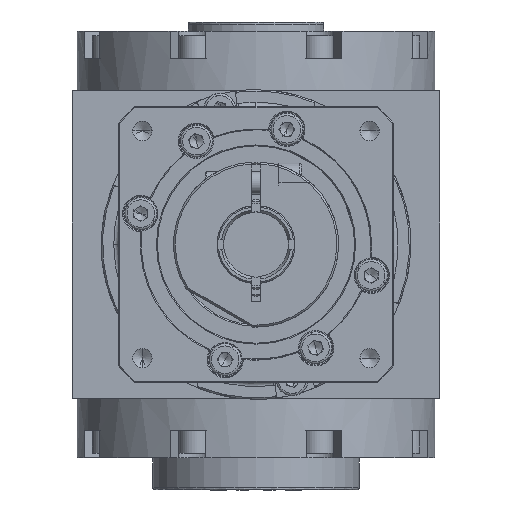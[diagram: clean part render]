
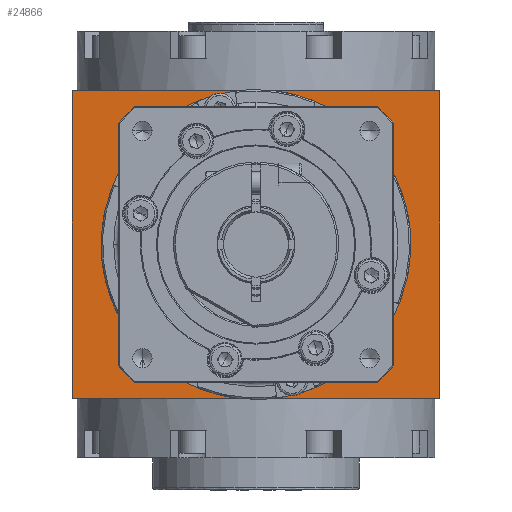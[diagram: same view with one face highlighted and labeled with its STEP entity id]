
A CAD part, front view. The second image highlights one B-rep face of the part: STEP entity #24866.
In plain terms, the highlighted planar face has unit normal (0, -1, 0).
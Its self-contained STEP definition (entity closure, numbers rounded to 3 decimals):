
#256 = ORIENTED_EDGE ( 'NONE', *, *, #37195, .T. ) ;
#699 = VERTEX_POINT ( 'NONE', #28340 ) ;
#805 = VECTOR ( 'NONE', #38858, 1000. ) ;
#1247 = DIRECTION ( 'NONE',  ( 0., 0., -1. ) ) ;
#1367 = AXIS2_PLACEMENT_3D ( 'NONE', #5632, #12560, #18520 ) ;
#2051 = EDGE_CURVE ( 'NONE', #20532, #18995, #13617, .T. ) ;
#2840 = EDGE_CURVE ( 'NONE', #23062, #39132, #9773, .T. ) ;
#3721 = DIRECTION ( 'NONE',  ( 0., 0., -1. ) ) ;
#4095 = VECTOR ( 'NONE', #11127, 1000. ) ;
#4501 = VERTEX_POINT ( 'NONE', #21606 ) ;
#5559 = VECTOR ( 'NONE', #6988, 1000. ) ;
#5572 = LINE ( 'NONE', #11529, #10159 ) ;
#5632 = CARTESIAN_POINT ( 'NONE',  ( 0., -40., 0. ) ) ;
#5805 = CARTESIAN_POINT ( 'NONE',  ( -26.458, -40., 30. ) ) ;
#6066 = CARTESIAN_POINT ( 'NONE',  ( -30., -40., 26.458 ) ) ;
#6264 = ORIENTED_EDGE ( 'NONE', *, *, #2051, .F. ) ;
#6988 = DIRECTION ( 'NONE',  ( -1., 0., 0. ) ) ;
#7060 = CARTESIAN_POINT ( 'NONE',  ( -30., -40., -26.458 ) ) ;
#7145 = DIRECTION ( 'NONE',  ( 0., 1., 0. ) ) ;
#8536 = CIRCLE ( 'NONE', #19934, 40. ) ;
#8936 = CARTESIAN_POINT ( 'NONE',  ( 26.458, -40., 30. ) ) ;
#9161 = DIRECTION ( 'NONE',  ( 1., 0., 0. ) ) ;
#9358 = VECTOR ( 'NONE', #9161, 1000. ) ;
#9736 = DIRECTION ( 'NONE',  ( 0., 0., 1. ) ) ;
#9773 = LINE ( 'NONE', #19091, #26849 ) ;
#9945 = CARTESIAN_POINT ( 'NONE',  ( 0., -40., 0. ) ) ;
#10159 = VECTOR ( 'NONE', #20439, 1000. ) ;
#10256 = CARTESIAN_POINT ( 'NONE',  ( 40., -40., -33.5 ) ) ;
#10361 = ORIENTED_EDGE ( 'NONE', *, *, #38444, .T. ) ;
#10387 = CARTESIAN_POINT ( 'NONE',  ( 0., -40., 0. ) ) ;
#11094 = LINE ( 'NONE', #32311, #805 ) ;
#11127 = DIRECTION ( 'NONE',  ( -1., 0., 0. ) ) ;
#11232 = VERTEX_POINT ( 'NONE', #5805 ) ;
#11529 = CARTESIAN_POINT ( 'NONE',  ( -30., -40., -33.5 ) ) ;
#11793 = VERTEX_POINT ( 'NONE', #8936 ) ;
#12560 = DIRECTION ( 'NONE',  ( 0., 1., 0. ) ) ;
#13405 = ORIENTED_EDGE ( 'NONE', *, *, #39240, .T. ) ;
#13617 = LINE ( 'NONE', #10256, #19393 ) ;
#14271 = CARTESIAN_POINT ( 'NONE',  ( -40., -40., -33.5 ) ) ;
#15913 = LINE ( 'NONE', #33954, #5559 ) ;
#16266 = CARTESIAN_POINT ( 'NONE',  ( 0., -40., 0. ) ) ;
#16523 = DIRECTION ( 'NONE',  ( 0., 0., 1. ) ) ;
#17289 = CIRCLE ( 'NONE', #31223, 40. ) ;
#17985 = ORIENTED_EDGE ( 'NONE', *, *, #38407, .T. ) ;
#18510 = VERTEX_POINT ( 'NONE', #6066 ) ;
#18520 = DIRECTION ( 'NONE',  ( 0., 0., 1. ) ) ;
#18995 = VERTEX_POINT ( 'NONE', #25814 ) ;
#19091 = CARTESIAN_POINT ( 'NONE',  ( -40., -40., -33.5 ) ) ;
#19283 = PLANE ( 'NONE',  #27143 ) ;
#19393 = VECTOR ( 'NONE', #3721, 1000. ) ;
#19934 = AXIS2_PLACEMENT_3D ( 'NONE', #10387, #22463, #16523 ) ;
#20043 = LINE ( 'NONE', #38502, #4095 ) ;
#20343 = CIRCLE ( 'NONE', #1367, 40. ) ;
#20439 = DIRECTION ( 'NONE',  ( 0., 0., 1. ) ) ;
#20532 = VERTEX_POINT ( 'NONE', #28506 ) ;
#20676 = ORIENTED_EDGE ( 'NONE', *, *, #32042, .T. ) ;
#21552 = EDGE_LOOP ( 'NONE', ( #13405, #256, #35334, #34308, #20676, #25423, #33608, #36570 ) ) ;
#21606 = CARTESIAN_POINT ( 'NONE',  ( 30., -40., 26.458 ) ) ;
#21925 = AXIS2_PLACEMENT_3D ( 'NONE', #16266, #7145, #9736 ) ;
#22463 = DIRECTION ( 'NONE',  ( 0., 1., 0. ) ) ;
#23062 = VERTEX_POINT ( 'NONE', #26522 ) ;
#24341 = LINE ( 'NONE', #36458, #39167 ) ;
#24542 = DIRECTION ( 'NONE',  ( 0., 0., -1. ) ) ;
#24866 = ADVANCED_FACE ( 'NONE', ( #31387, #28597 ), #19283, .T. ) ;
#25203 = DIRECTION ( 'NONE',  ( 0., 0., 1. ) ) ;
#25423 = ORIENTED_EDGE ( 'NONE', *, *, #27252, .T. ) ;
#25814 = CARTESIAN_POINT ( 'NONE',  ( 40., -40., -33.5 ) ) ;
#26522 = CARTESIAN_POINT ( 'NONE',  ( -40., -40., 33.5 ) ) ;
#26536 = CARTESIAN_POINT ( 'NONE',  ( -40., -40., -33.5 ) ) ;
#26849 = VECTOR ( 'NONE', #27812, 1000. ) ;
#27043 = VERTEX_POINT ( 'NONE', #7060 ) ;
#27143 = AXIS2_PLACEMENT_3D ( 'NONE', #14271, #35296, #1247 ) ;
#27252 = EDGE_CURVE ( 'NONE', #18510, #11232, #20343, .T. ) ;
#27812 = DIRECTION ( 'NONE',  ( 0., 0., -1. ) ) ;
#28027 = VERTEX_POINT ( 'NONE', #35103 ) ;
#28340 = CARTESIAN_POINT ( 'NONE',  ( 26.458, -40., -30. ) ) ;
#28506 = CARTESIAN_POINT ( 'NONE',  ( 40., -40., 33.5 ) ) ;
#28544 = CARTESIAN_POINT ( 'NONE',  ( -26.458, -40., -30. ) ) ;
#28597 = FACE_BOUND ( 'NONE', #21552, .T. ) ;
#30045 = EDGE_LOOP ( 'NONE', ( #33466, #17985, #6264, #10361 ) ) ;
#31164 = DIRECTION ( 'NONE',  ( 0., 1., 0. ) ) ;
#31223 = AXIS2_PLACEMENT_3D ( 'NONE', #9945, #31164, #25203 ) ;
#31387 = FACE_OUTER_BOUND ( 'NONE', #30045, .T. ) ;
#32042 = EDGE_CURVE ( 'NONE', #27043, #18510, #5572, .T. ) ;
#32311 = CARTESIAN_POINT ( 'NONE',  ( -40., -40., 30. ) ) ;
#33466 = ORIENTED_EDGE ( 'NONE', *, *, #2840, .T. ) ;
#33608 = ORIENTED_EDGE ( 'NONE', *, *, #33643, .T. ) ;
#33643 = EDGE_CURVE ( 'NONE', #11232, #11793, #11094, .T. ) ;
#33954 = CARTESIAN_POINT ( 'NONE',  ( -40., -40., 33.5 ) ) ;
#34084 = EDGE_CURVE ( 'NONE', #36011, #27043, #17289, .T. ) ;
#34308 = ORIENTED_EDGE ( 'NONE', *, *, #34084, .T. ) ;
#34719 = EDGE_CURVE ( 'NONE', #11793, #4501, #8536, .T. ) ;
#35103 = CARTESIAN_POINT ( 'NONE',  ( 30., -40., -26.458 ) ) ;
#35296 = DIRECTION ( 'NONE',  ( 0., -1., 0. ) ) ;
#35334 = ORIENTED_EDGE ( 'NONE', *, *, #35748, .T. ) ;
#35748 = EDGE_CURVE ( 'NONE', #699, #36011, #20043, .T. ) ;
#36011 = VERTEX_POINT ( 'NONE', #28544 ) ;
#36353 = CARTESIAN_POINT ( 'NONE',  ( 0., -40., -33.5 ) ) ;
#36458 = CARTESIAN_POINT ( 'NONE',  ( 30., -40., -33.5 ) ) ;
#36570 = ORIENTED_EDGE ( 'NONE', *, *, #34719, .T. ) ;
#37195 = EDGE_CURVE ( 'NONE', #28027, #699, #39026, .T. ) ;
#38407 = EDGE_CURVE ( 'NONE', #39132, #18995, #38920, .T. ) ;
#38444 = EDGE_CURVE ( 'NONE', #20532, #23062, #15913, .T. ) ;
#38502 = CARTESIAN_POINT ( 'NONE',  ( -40., -40., -30. ) ) ;
#38858 = DIRECTION ( 'NONE',  ( 1., 0., 0. ) ) ;
#38920 = LINE ( 'NONE', #36353, #9358 ) ;
#39026 = CIRCLE ( 'NONE', #21925, 40. ) ;
#39132 = VERTEX_POINT ( 'NONE', #26536 ) ;
#39167 = VECTOR ( 'NONE', #24542, 1000. ) ;
#39240 = EDGE_CURVE ( 'NONE', #4501, #28027, #24341, .T. ) ;
